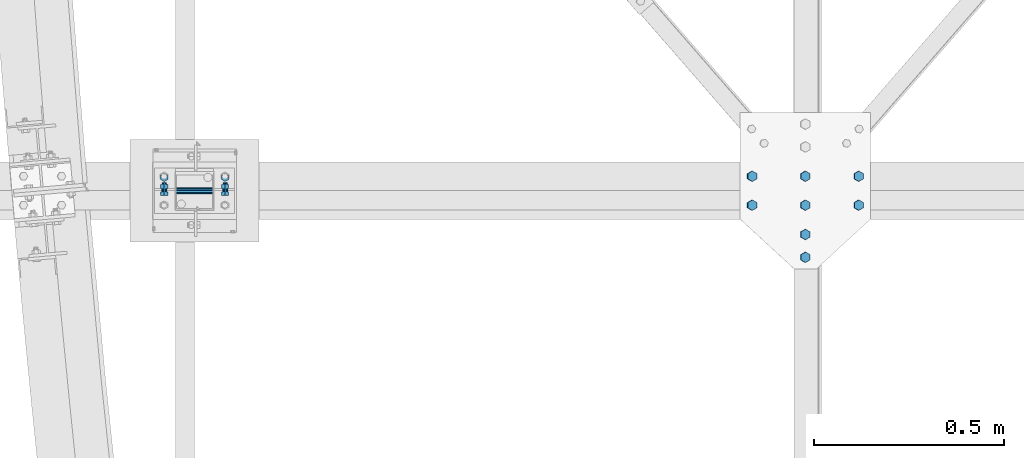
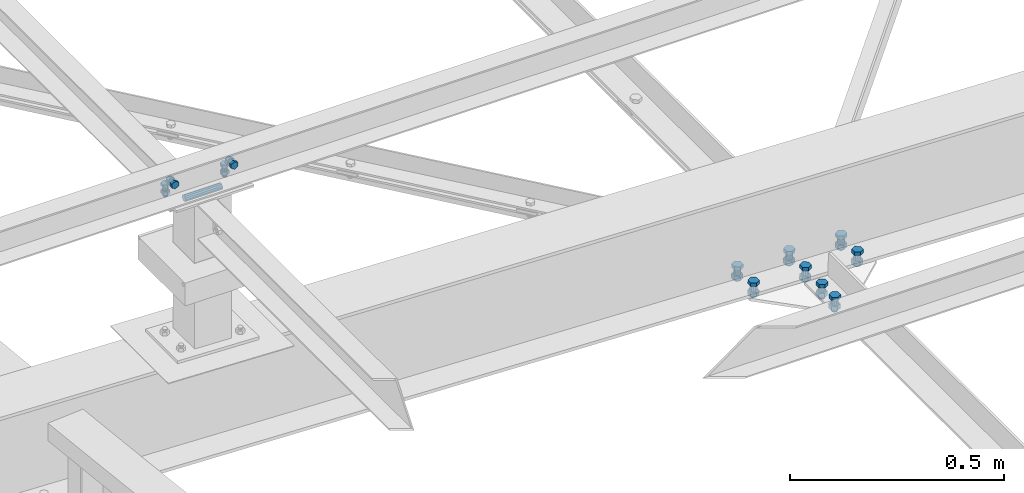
# One storey, part 76 of 3134: 5 mechanical fasteners, 4 elements without a shape of their own.
"""IFC2X3 building model written with IfcOpenShell, lengths in millimetres."""

import ifcopenshell
import ifcopenshell.guid

model = None  # the IFC model being written
_history = None  # IfcOwnerHistory: only IFC2X3 demands one
_inside = {}  # id of a spatial element -> (the spatial element, [elements in it])
_under = {}  # id of a project, library or spatial element -> (it, [spatial elements below it])
_declared = {}  # id of a project -> (the project, [libraries it declares])
_typed = {}  # id of a type object -> (the type object, [elements of that type])
_made_of = {}  # id of a material, layer set ... -> (it, [elements and type objects made of it])


def new_model(schema):
    """Start an empty IFC model of exactly this schema.

    Asked for "IFC4X3", IfcOpenShell would pick the latest addendum, in which some entities
    have other attributes; the version numbers below select the first issue.
    IFC2X3 requires an IfcOwnerHistory on every rooted entity: one is made here for all.
    """
    global model, _history
    if schema == "IFC4X3":
        model = ifcopenshell.file(schema_version=(4, 3, 0, 0))
    else:
        model = ifcopenshell.file(schema=schema)
    _inside.clear()
    _under.clear()
    _declared.clear()
    _typed.clear()
    _made_of.clear()
    _history = None
    if model.schema == "IFC2X3":
        org = make("IfcOrganization", Name="unknown")
        user = make(
            "IfcPersonAndOrganization",
            ThePerson=make("IfcPerson", FamilyName="unknown"),
            TheOrganization=org,
        )
        app = make(
            "IfcApplication",
            ApplicationDeveloper=org,
            Version="unknown",
            ApplicationFullName="unknown",
            ApplicationIdentifier="unknown",
        )
        _history = make(
            "IfcOwnerHistory",
            OwningUser=user,
            OwningApplication=app,
            ChangeAction="ADDED",
            CreationDate=0,
        )
    return model


def make(cls, **values):
    """One entity of the class cls with the attributes given. An attribute that is None is left unset."""
    return model.create_entity(
        cls, **{name: value for name, value in values.items() if value is not None}
    )


def rooted(cls, **values):
    """An entity with a GlobalId (a new one), such as an element, a storey or a relation."""
    return make(cls, GlobalId=ifcopenshell.guid.new(), OwnerHistory=_history, **values)


def si_unit(unit_type, name, prefix=None):
    """IfcSIUnit, for example si_unit("LENGTHUNIT", "METRE", prefix="MILLI")."""
    return make("IfcSIUnit", UnitType=unit_type, Prefix=prefix, Name=name)


def assignment(units):
    """IfcUnitAssignment: the units of a project."""
    return None if units is None else make("IfcUnitAssignment", Units=units)


def point(xyz):
    """IfcCartesianPoint."""
    return None if xyz is None else make("IfcCartesianPoint", Coordinates=xyz)


def direction(xyz):
    """IfcDirection."""
    return None if xyz is None else make("IfcDirection", DirectionRatios=xyz)


def frame(location, z_axis=None, x_axis=None):
    """IfcAxis2Placement3D, a coordinate frame: its origin and axes. An axis left out is left unset."""
    return make(
        "IfcAxis2Placement3D",
        Location=point(location),
        Axis=direction(z_axis),
        RefDirection=direction(x_axis),
    )


def origin_with_axes():
    """The frame at (0, 0, 0) with the z axis (0, 0, 1) and the x axis (1, 0, 0) written out."""
    return frame((0.0, 0.0, 0.0), z_axis=(0.0, 0.0, 1.0), x_axis=(1.0, 0.0, 0.0))


def place(relative_to, where):
    """IfcLocalPlacement: puts the frame where relative to a parent placement (None: the world)."""
    return make(
        "IfcLocalPlacement", PlacementRelTo=relative_to, RelativePlacement=where
    )


def context(
    kind, dimensions, precision=None, world=None, true_north=None, identifier=None
):
    """IfcGeometricRepresentationContext, for example the 3D "Model" context."""
    return make(
        "IfcGeometricRepresentationContext",
        ContextIdentifier=identifier,
        ContextType=kind,
        CoordinateSpaceDimension=dimensions,
        Precision=precision,
        WorldCoordinateSystem=world,
        TrueNorth=true_north,
    )


def subcontext(parent, identifier, kind, view, scale=None):
    """IfcGeometricRepresentationSubContext, for example "Body" below "Model"."""
    return make(
        "IfcGeometricRepresentationSubContext",
        ContextIdentifier=identifier,
        ContextType=kind,
        ParentContext=parent,
        TargetScale=scale,
        TargetView=view,
    )


def project(units=None, contexts=None):
    """IfcProject with its units and contexts."""
    return rooted(
        "IfcProject",
        Name="project",
        RepresentationContexts=contexts,
        UnitsInContext=assignment(units),
    )


def spatial(cls, under=None, at=None, **own):
    """A site, building, storey or space (cls), placed at a placement, below another one or the project."""
    s = rooted(cls, ObjectPlacement=at, **own)
    if under is not None:
        _under.setdefault(under.id(), (under, []))[1].append(s)
    return s


def faces_of(points, faces, orient=None, outer=None):
    """IfcFace entities. A face is a list of loops; a loop is a list of indices into points, from 0.

    orient and outer hold one flag for each loop. By default every Orientation is true, the
    first loop of a face is its IfcFaceOuterBound and the others are IfcFaceBound.
    """
    made = []
    for i, loops in enumerate(faces):
        bounds = []
        for j, loop in enumerate(loops):
            is_outer = j == 0 if outer is None else outer[i][j]
            bounds.append(
                make(
                    "IfcFaceOuterBound" if is_outer else "IfcFaceBound",
                    Bound=make("IfcPolyLoop", Polygon=[points[k] for k in loop]),
                    Orientation=True if orient is None else orient[i][j],
                )
            )
        made.append(make("IfcFace", Bounds=bounds))
    return made


def faceted_brep(points, faces, orient=None, outer=None, voids=None):
    """IfcFacetedBrep: a solid bounded by flat faces; with voids (closed shells), ...WithVoids."""
    shared = [point(p) for p in points]
    hull = make("IfcClosedShell", CfsFaces=faces_of(shared, faces, orient, outer))
    if voids is None:
        return make("IfcFacetedBrep", Outer=hull)
    return make(
        "IfcFacetedBrepWithVoids",
        Outer=hull,
        Voids=[
            make(cls, CfsFaces=faces_of(shared, fs, o, b)) for cls, fs, o, b in voids
        ],
    )


def shape(context_of_items, identifier, shape_type, items):
    """IfcShapeRepresentation: the items that make up one representation, for example the "Body"."""
    return make(
        "IfcShapeRepresentation",
        ContextOfItems=context_of_items,
        RepresentationIdentifier=identifier,
        RepresentationType=shape_type,
        Items=items,
    )


def source(mapping_origin, context_of_items, identifier, shape_type, items):
    """IfcRepresentationMap: a shape defined once, which mapped items show again and again."""
    return make(
        "IfcRepresentationMap",
        MappingOrigin=mapping_origin,
        MappedRepresentation=shape(context_of_items, identifier, shape_type, items),
    )


def transform(
    local_origin,
    x_axis=None,
    y_axis=None,
    z_axis=None,
    scale=None,
    scale2=None,
    scale3=None,
    uniform=True,
):
    """IfcCartesianTransformationOperator3D, or its non-uniform kind. x_axis, y_axis, z_axis: its Axis1, 2, 3."""
    if uniform:
        return make(
            "IfcCartesianTransformationOperator3D",
            Axis1=direction(x_axis),
            Axis2=direction(y_axis),
            LocalOrigin=point(local_origin),
            Scale=scale,
            Axis3=direction(z_axis),
        )
    return make(
        "IfcCartesianTransformationOperator3DnonUniform",
        Axis1=direction(x_axis),
        Axis2=direction(y_axis),
        LocalOrigin=point(local_origin),
        Scale=scale,
        Axis3=direction(z_axis),
        Scale2=scale2,
        Scale3=scale3,
    )


def mapped(mapping_source, mapping_target):
    """IfcMappedItem: shows the shape of a source again, moved by a transform."""
    return make(
        "IfcMappedItem", MappingSource=mapping_source, MappingTarget=mapping_target
    )


def material(Name=None, Category=None):
    """IfcMaterial."""
    return make("IfcMaterial", Name=Name, Category=Category)


def made_of(thing, what):
    """Note that an element or type object is made of a material, layer set ...; save() writes the relation."""
    if what is not None:
        _made_of.setdefault(what.id(), (what, []))[1].append(thing)
    return thing


def type_object(cls, material=None, **own):
    """A type object (cls), such as IfcWallType, which elements share."""
    return made_of(rooted(cls, **own), material)


def element(
    cls,
    number,
    at=None,
    inside=None,
    cuts=None,
    type_object=None,
    material=None,
    context=None,
    identifier="Body",
    shape_type=None,
    held_by="IfcProductDefinitionShape",
    body=None,
    shapes=None,
    **own,
):
    """One element of the class cls, such as IfcWall. Its Tag is "e" and its number.

    at: its placement. inside: the storey or other place that contains it. cuts: it is an
    opening in that element (IfcRelVoidsElement). A single representation is given by context,
    identifier, shape_type and body (its items); several are given by shapes. held_by: the class
    of the entity that holds the representations. save() writes the other relations.
    """
    e = rooted(cls, Tag="e%d" % number, ObjectPlacement=at, **own)
    if body is not None:
        shapes = [shape(context, identifier, shape_type, body)]
    if shapes is not None:
        e.Representation = make(held_by, Representations=shapes)
    if inside is not None:
        _inside.setdefault(inside.id(), (inside, []))[1].append(e)
    if cuts is not None:
        rooted(
            "IfcRelVoidsElement", RelatingBuildingElement=cuts, RelatedOpeningElement=e
        )
    if type_object is not None:
        _typed.setdefault(type_object.id(), (type_object, []))[1].append(e)
    return made_of(e, material)


def aggregate(whole, parts):
    """IfcRelAggregates: a whole, such as a stair, and the parts it consists of."""
    return rooted("IfcRelAggregates", RelatingObject=whole, RelatedObjects=parts)


def save(model, path):
    """Write the relations noted so far, then the file.

    IfcRelAggregates (storeys below a building ...), IfcRelContainedInSpatialStructure (elements
    in a storey), IfcRelDefinesByType, IfcRelAssociatesMaterial and IfcRelDeclares: one each for
    every whole, place, type object, material and project.
    """
    for whole, parts in _under.values():
        aggregate(whole, parts)
    for where, things in _inside.values():
        rooted(
            "IfcRelContainedInSpatialStructure",
            RelatedElements=things,
            RelatingStructure=where,
        )
    for kind, things in _typed.values():
        rooted("IfcRelDefinesByType", RelatedObjects=things, RelatingType=kind)
    for what, things in _made_of.values():
        rooted("IfcRelAssociatesMaterial", RelatedObjects=things, RelatingMaterial=what)
    for by, libraries in _declared.values():
        rooted("IfcRelDeclares", RelatingContext=by, RelatedDefinitions=libraries)
    model.write(path)


model = new_model("IFC2X3")

# Units and contexts
model_context = context("Model", 3, precision=1e-05, world=origin_with_axes())
body_context = subcontext(model_context, "Body", "Model", "MODEL_VIEW")
ifc_project = project(units=[si_unit("LENGTHUNIT", "METRE", prefix="MILLI"), si_unit("AREAUNIT", "SQUARE_METRE"), si_unit("VOLUMEUNIT", "CUBIC_METRE"), si_unit("MASSUNIT", "GRAM", prefix="KILO"), si_unit("TIMEUNIT", "SECOND"), si_unit("PLANEANGLEUNIT", "RADIAN"), si_unit("SOLIDANGLEUNIT", "STERADIAN"), si_unit("THERMODYNAMICTEMPERATUREUNIT", "DEGREE_CELSIUS"), si_unit("LUMINOUSINTENSITYUNIT", "LUMEN")], contexts=[model_context])

# Site, building, storey
site_placement = place(None, origin_with_axes())
site = spatial("IfcSite", under=ifc_project, at=site_placement, CompositionType="ELEMENT")
building_placement = place(site_placement, origin_with_axes())
building = spatial("IfcBuilding", under=site, at=building_placement, Name="Undefined", CompositionType="ELEMENT")
storey_placement = place(building_placement, origin_with_axes())
storey = spatial("IfcBuildingStorey", under=building, at=storey_placement, Name="Undefined", CompositionType="ELEMENT", Elevation=0.0)

# Assembly, mechanical fastener
assembly_1_placement = place(storey_placement, origin_with_axes())
assembly_1 = element("IfcElementAssembly", 1, at=assembly_1_placement, inside=storey, AssemblyPlace="NOTDEFINED", PredefinedType="RIGID_FRAME")
ifc_material = material(Name="8.8")
mechanical_fastener_type = type_object("IfcMechanicalFastenerType", Name="Bolt assembly")
shared_shape_1 = source(origin_with_axes(), body_context, "Body", "Brep", [
    faceted_brep([(10.9696551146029, -14.0, 0.0), (5.48482755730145, -14.0, 9.5), (-5.48482755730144, -14.0, 9.5), (-10.9696551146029, -14.0, 1.34339530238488e-15), (-5.48482755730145, -14.0, -9.5), (5.48482755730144, -14.0, -9.50000000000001), (5.48482755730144, -6.0, -9.50000000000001), (-5.48482755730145, -6.0, -9.5), (-10.9696551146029, -6.0, 1.34339530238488e-15), (-5.48482755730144, -6.0, 9.5), (5.48482755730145, -6.0, 9.5), (10.9696551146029, -6.0, 0.0), (6.0, -6.0, 0.0), (5.19615242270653, -6.0, 3.00000000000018), (2.99999999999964, -6.0, 5.19615242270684), (-6.21801588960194e-13, -6.0, 6.0), (-3.00000000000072, -6.0, 5.19615242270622), (-5.19615242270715, -6.0, 2.9999999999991), (-6.0, -6.0, -1.24360317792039e-12), (-5.19615242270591, -6.0, -3.00000000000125), (-2.99999999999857, -6.0, -5.19615242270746), (1.85874342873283e-12, -6.0, -6.0), (3.00000000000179, -6.0, -5.1961524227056), (5.19615242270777, -6.0, -2.99999999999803), (5.19615242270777, 24.0, -2.99999999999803), (3.00000000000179, 24.0, -5.1961524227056), (1.85874342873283e-12, 24.0, -6.0), (-2.99999999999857, 24.0, -5.19615242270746), (-5.19615242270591, 24.0, -3.00000000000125), (-6.0, 24.0, -1.24360317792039e-12), (-5.19615242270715, 24.0, 2.9999999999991), (-3.00000000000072, 24.0, 5.19615242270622), (-6.21801588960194e-13, 24.0, 6.0), (2.99999999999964, 24.0, 5.19615242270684), (5.19615242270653, 24.0, 3.00000000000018), (6.0, 24.0, 0.0), (10.9696551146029, 6.00000000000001, 0.0), (5.48482755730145, 6.00000000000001, 9.5), (-5.48482755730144, 6.00000000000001, 9.5), (-10.9696551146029, 6.00000000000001, 1.34339530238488e-15), (-5.48482755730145, 6.00000000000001, -9.5), (5.48482755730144, 6.00000000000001, -9.50000000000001), (5.48482755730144, 16.0, -9.50000000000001), (-5.48482755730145, 16.0, -9.5), (-10.9696551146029, 16.0, 1.34339530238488e-15), (-5.48482755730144, 16.0, 9.5), (5.48482755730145, 16.0, 9.5), (10.9696551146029, 16.0, 0.0)], [[[0, 1, 2, 3, 4, 5]], [[6, 7, 8, 9, 10, 11]], [[0, 11, 10, 1]], [[1, 10, 9, 2]], [[2, 9, 8, 3]], [[3, 8, 7, 4]], [[4, 7, 6, 5]], [[5, 6, 11, 0]], [[12, 13, 14, 15, 16, 17, 18, 19, 20, 21, 22, 23]], [[24, 25, 26, 27, 28, 29, 30, 31, 32, 33, 34, 35]], [[12, 35, 34, 13]], [[13, 34, 33, 14]], [[14, 33, 32, 15]], [[15, 32, 31, 16]], [[16, 31, 30, 17]], [[17, 30, 29, 18]], [[18, 29, 28, 19]], [[19, 28, 27, 20]], [[20, 27, 26, 21]], [[21, 26, 25, 22]], [[22, 25, 24, 23]], [[23, 24, 35, 12]], [[36, 37, 38, 39, 40, 41]], [[42, 43, 44, 45, 46, 47]], [[36, 47, 46, 37]], [[37, 46, 45, 38]], [[38, 45, 44, 39]], [[39, 44, 43, 40]], [[40, 43, 42, 41]], [[41, 42, 47, 36]]]),
    faceted_brep([(7.0, -0.1, 0.0), (6.06217782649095, -0.1, 3.50000000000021), (3.49999999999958, -0.1, 6.06217782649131), (-7.25435187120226e-13, -0.1, 7.0), (-3.50000000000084, -0.1, 6.06217782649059), (-6.06217782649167, -0.1, 3.49999999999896), (-7.0, -0.1, -1.45087037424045e-12), (-6.06217782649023, -0.1, -3.50000000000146), (-3.49999999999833, -0.1, -6.06217782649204), (2.1685340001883e-12, -0.1, -7.0), (3.50000000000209, -0.1, -6.06217782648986), (6.0621778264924, -0.1, -3.4999999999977), (6.0621778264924, 6.00000000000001, -3.4999999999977), (3.50000000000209, 6.00000000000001, -6.06217782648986), (2.1685340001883e-12, 6.00000000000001, -7.0), (-3.49999999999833, 6.00000000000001, -6.06217782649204), (-6.06217782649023, 6.00000000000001, -3.50000000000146), (-7.0, 6.00000000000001, -1.45087037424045e-12), (-6.06217782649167, 6.00000000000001, 3.49999999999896), (-3.50000000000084, 6.00000000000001, 6.06217782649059), (-7.25435187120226e-13, 6.00000000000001, 7.0), (3.49999999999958, 6.00000000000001, 6.06217782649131), (6.06217782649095, 6.00000000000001, 3.50000000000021), (7.0, 6.00000000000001, 0.0), (7.0, -5.9, 0.0), (6.06217782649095, -5.9, 3.50000000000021), (3.49999999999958, -5.9, 6.06217782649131), (-7.25435187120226e-13, -5.9, 7.0), (-3.50000000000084, -5.9, 6.06217782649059), (-6.06217782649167, -5.9, 3.49999999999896), (-7.0, -5.9, -1.45087037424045e-12), (-6.06217782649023, -5.9, -3.50000000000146), (-3.49999999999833, -5.9, -6.06217782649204), (2.1685340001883e-12, -5.9, -7.0), (3.50000000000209, -5.9, -6.06217782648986), (6.0621778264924, -5.9, -3.4999999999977), (6.0621778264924, 0.0999999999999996, -3.4999999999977), (3.50000000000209, 0.0999999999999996, -6.06217782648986), (2.1685340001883e-12, 0.0999999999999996, -7.0), (-3.49999999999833, 0.0999999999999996, -6.06217782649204), (-6.06217782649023, 0.0999999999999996, -3.50000000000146), (-7.0, 0.0999999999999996, -1.45087037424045e-12), (-6.06217782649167, 0.0999999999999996, 3.49999999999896), (-3.50000000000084, 0.0999999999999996, 6.06217782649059), (-7.25435187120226e-13, 0.0999999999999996, 7.0), (3.49999999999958, 0.0999999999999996, 6.06217782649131), (6.06217782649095, 0.0999999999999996, 3.50000000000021), (7.0, 0.0999999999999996, 0.0)], [[[0, 1, 2, 3, 4, 5, 6, 7, 8, 9, 10, 11]], [[12, 13, 14, 15, 16, 17, 18, 19, 20, 21, 22, 23]], [[0, 23, 22, 1]], [[1, 22, 21, 2]], [[2, 21, 20, 3]], [[3, 20, 19, 4]], [[4, 19, 18, 5]], [[5, 18, 17, 6]], [[6, 17, 16, 7]], [[7, 16, 15, 8]], [[8, 15, 14, 9]], [[9, 14, 13, 10]], [[10, 13, 12, 11]], [[11, 12, 23, 0]], [[24, 25, 26, 27, 28, 29, 30, 31, 32, 33, 34, 35]], [[36, 37, 38, 39, 40, 41, 42, 43, 44, 45, 46, 47]], [[24, 47, 46, 25]], [[25, 46, 45, 26]], [[26, 45, 44, 27]], [[27, 44, 43, 28]], [[28, 43, 42, 29]], [[29, 42, 41, 30]], [[30, 41, 40, 31]], [[31, 40, 39, 32]], [[32, 39, 38, 33]], [[33, 38, 37, 34]], [[34, 37, 36, 35]], [[35, 36, 47, 24]]]),
])
mechanical_fastener_1_placement = place(assembly_1_placement, frame((3043.33, 29610.0, 4365.0), z_axis=(1.0, 0.0, 0.0), x_axis=(0.0, -1.0, 0.0)))
mechanical_fastener_1 = element("IfcMechanicalFastener", 2, at=mechanical_fastener_1_placement, type_object=mechanical_fastener_type, material=ifc_material, Name="Bolt assembly", NominalDiameter=12.0, NominalLength=30.0, context=body_context, shape_type="MappedRepresentation", body=[
    mapped(shared_shape_1, transform((0.0, -5.32963895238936e-10, -79.9999999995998))),
    mapped(shared_shape_1, transform((0.0, 5.3114490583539e-10, 79.9999999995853))),
])

assembly_2_placement = place(storey_placement, origin_with_axes())
assembly_2 = element("IfcElementAssembly", 3, at=assembly_2_placement, inside=storey, Name="300", AssemblyPlace="NOTDEFINED", PredefinedType="RIGID_FRAME")
shared_shape_2 = source(origin_with_axes(), body_context, "Body", "Brep", [
    faceted_brep([(13.856406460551, -23.2000817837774, 0.0), (6.92820323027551, -23.2000817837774, 12.0), (-6.92820323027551, -23.2000817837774, 12.0), (-13.856406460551, -23.2000817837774, 1.69692038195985e-15), (-6.92820323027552, -23.2000817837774, -12.0), (6.9282032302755, -23.2000817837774, -12.0), (6.9282032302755, -13.2000817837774, -12.0), (-6.92820323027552, -13.2000817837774, -12.0), (-13.856406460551, -13.2000817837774, 1.69692038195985e-15), (-6.92820323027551, -13.2000817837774, 12.0), (6.92820323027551, -13.2000817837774, 12.0), (13.856406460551, -13.2000817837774, 0.0), (8.0, -13.2000817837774, 0.0), (6.92820323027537, -13.2000817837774, 4.00000000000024), (3.99999999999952, -13.2000817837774, 6.92820323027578), (-8.29068785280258e-13, -13.2000817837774, 8.0), (-4.00000000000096, -13.2000817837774, 6.92820323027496), (-6.9282032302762, -13.2000817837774, 3.99999999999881), (-8.0, -13.2000817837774, -1.65813757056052e-12), (-6.92820323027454, -13.2000817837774, -4.00000000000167), (-3.99999999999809, -13.2000817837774, -6.92820323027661), (2.47832457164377e-12, -13.2000817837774, -8.0), (4.00000000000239, -13.2000817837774, -6.92820323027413), (6.92820323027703, -13.2000817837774, -3.99999999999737), (6.92820323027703, 21.7999182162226, -3.99999999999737), (4.00000000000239, 21.7999182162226, -6.92820323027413), (2.47832457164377e-12, 21.7999182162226, -8.0), (-3.99999999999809, 21.7999182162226, -6.92820323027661), (-6.92820323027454, 21.7999182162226, -4.00000000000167), (-8.0, 21.7999182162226, -1.65813757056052e-12), (-6.9282032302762, 21.7999182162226, 3.99999999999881), (-4.00000000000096, 21.7999182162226, 6.92820323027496), (-8.29068785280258e-13, 21.7999182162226, 8.0), (3.99999999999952, 21.7999182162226, 6.92820323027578), (6.92820323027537, 21.7999182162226, 4.00000000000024), (8.0, 21.7999182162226, 0.0), (13.856406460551, 3.99999999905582, 0.0), (6.92820323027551, 3.99999999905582, 12.0), (-6.92820323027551, 3.99999999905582, 12.0), (-13.856406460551, 3.99999999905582, 1.69692038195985e-15), (-6.92820323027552, 3.99999999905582, -12.0), (6.9282032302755, 3.99999999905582, -12.0), (6.9282032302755, 16.9999999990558, -12.0), (-6.92820323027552, 16.9999999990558, -12.0), (-13.856406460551, 16.9999999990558, 1.69692038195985e-15), (-6.92820323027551, 16.9999999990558, 12.0), (6.92820323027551, 16.9999999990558, 12.0), (13.856406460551, 16.9999999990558, 0.0)], [[[0, 1, 2, 3, 4, 5]], [[6, 7, 8, 9, 10, 11]], [[0, 11, 10, 1]], [[1, 10, 9, 2]], [[2, 9, 8, 3]], [[3, 8, 7, 4]], [[4, 7, 6, 5]], [[5, 6, 11, 0]], [[12, 13, 14, 15, 16, 17, 18, 19, 20, 21, 22, 23]], [[24, 25, 26, 27, 28, 29, 30, 31, 32, 33, 34, 35]], [[12, 35, 34, 13]], [[13, 34, 33, 14]], [[14, 33, 32, 15]], [[15, 32, 31, 16]], [[16, 31, 30, 17]], [[17, 30, 29, 18]], [[18, 29, 28, 19]], [[19, 28, 27, 20]], [[20, 27, 26, 21]], [[21, 26, 25, 22]], [[22, 25, 24, 23]], [[23, 24, 35, 12]], [[36, 37, 38, 39, 40, 41]], [[42, 43, 44, 45, 46, 47]], [[36, 47, 46, 37]], [[37, 46, 45, 38]], [[38, 45, 44, 39]], [[39, 44, 43, 40]], [[40, 43, 42, 41]], [[41, 42, 47, 36]]]),
    faceted_brep([(9.0, -4.10000000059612, 0.0), (7.79422863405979, -4.10000000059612, 4.50000000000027), (4.49999999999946, -4.10000000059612, 7.79422863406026), (-9.3270238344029e-13, -4.10000000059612, 9.0), (-4.50000000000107, -4.10000000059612, 7.79422863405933), (-7.79422863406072, -4.10000000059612, 4.49999999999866), (-9.0, -4.10000000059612, -1.86540476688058e-12), (-7.79422863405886, -4.10000000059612, -4.50000000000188), (-4.49999999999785, -4.10000000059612, -7.79422863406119), (2.78811514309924e-12, -4.10000000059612, -9.0), (4.50000000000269, -4.10000000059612, -7.7942286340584), (7.79422863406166, -4.10000000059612, -4.49999999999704), (7.79422863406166, 4.00000375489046, -4.49999999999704), (4.50000000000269, 4.00000375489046, -7.7942286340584), (2.78811514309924e-12, 4.00000375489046, -9.0), (-4.49999999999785, 4.00000375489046, -7.79422863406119), (-7.79422863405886, 4.00000375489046, -4.50000000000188), (-9.0, 4.00000375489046, -1.86540476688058e-12), (-7.79422863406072, 4.00000375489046, 4.49999999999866), (-4.50000000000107, 4.00000375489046, 7.79422863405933), (-9.3270238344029e-13, 4.00000375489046, 9.0), (4.49999999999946, 4.00000375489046, 7.79422863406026), (7.79422863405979, 4.00000375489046, 4.50000000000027), (9.0, 4.00000375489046, 0.0), (9.0, -13.1000817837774, 0.0), (7.79422863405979, -13.1000817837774, 4.50000000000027), (4.49999999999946, -13.1000817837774, 7.79422863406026), (-9.3270238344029e-13, -13.1000817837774, 9.0), (-4.50000000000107, -13.1000817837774, 7.79422863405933), (-7.79422863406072, -13.1000817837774, 4.49999999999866), (-9.0, -13.1000817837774, -1.86540476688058e-12), (-7.79422863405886, -13.1000817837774, -4.50000000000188), (-4.49999999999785, -13.1000817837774, -7.79422863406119), (2.78811514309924e-12, -13.1000817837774, -9.0), (4.50000000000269, -13.1000817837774, -7.7942286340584), (7.79422863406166, -13.1000817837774, -4.49999999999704), (7.79422863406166, -3.90008197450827, -4.49999999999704), (4.50000000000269, -3.90008197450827, -7.7942286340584), (2.78811514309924e-12, -3.90008197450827, -9.0), (-4.49999999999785, -3.90008197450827, -7.79422863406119), (-7.79422863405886, -3.90008197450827, -4.50000000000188), (-9.0, -3.90008197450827, -1.86540476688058e-12), (-7.79422863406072, -3.90008197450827, 4.49999999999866), (-4.50000000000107, -3.90008197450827, 7.79422863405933), (-9.3270238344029e-13, -3.90008197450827, 9.0), (4.49999999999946, -3.90008197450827, 7.79422863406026), (7.79422863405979, -3.90008197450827, 4.50000000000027), (9.0, -3.90008197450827, 0.0)], [[[0, 1, 2, 3, 4, 5, 6, 7, 8, 9, 10, 11]], [[12, 13, 14, 15, 16, 17, 18, 19, 20, 21, 22, 23]], [[0, 23, 22, 1]], [[1, 22, 21, 2]], [[2, 21, 20, 3]], [[3, 20, 19, 4]], [[4, 19, 18, 5]], [[5, 18, 17, 6]], [[6, 17, 16, 7]], [[7, 16, 15, 8]], [[8, 15, 14, 9]], [[9, 14, 13, 10]], [[10, 13, 12, 11]], [[11, 12, 23, 0]], [[24, 25, 26, 27, 28, 29, 30, 31, 32, 33, 34, 35]], [[36, 37, 38, 39, 40, 41, 42, 43, 44, 45, 46, 47]], [[24, 47, 46, 25]], [[25, 46, 45, 26]], [[26, 45, 44, 27]], [[27, 44, 43, 28]], [[28, 43, 42, 29]], [[29, 42, 41, 30]], [[30, 41, 40, 31]], [[31, 40, 39, 32]], [[32, 39, 38, 33]], [[33, 38, 37, 34]], [[34, 37, 36, 35]], [[35, 36, 47, 24]]]),
])
mechanical_fastener_2_placement = place(assembly_2_placement, frame((4647.5048352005, 29537.0, 3576.15051900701), z_axis=(-0.999388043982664, 0.0, 0.0349791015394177), x_axis=(0.0, 1.0, 0.0)))
mechanical_fastener_2 = element("IfcMechanicalFastener", 4, at=mechanical_fastener_2_placement, type_object=mechanical_fastener_type, material=ifc_material, Name="Bolt assembly", NominalDiameter=16.0, NominalLength=35.0, context=body_context, shape_type="MappedRepresentation", body=[
    mapped(shared_shape_2, transform((0.0, 2.38287611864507e-10, -139.999999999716))),
    mapped(shared_shape_2, transform((76.0, 2.38287611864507e-10, -139.999999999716))),
    mapped(shared_shape_2, transform((0.0, 0.0, 0.0))),
    mapped(shared_shape_2, transform((76.0, 0.0, 0.0))),
    mapped(shared_shape_2, transform((0.0, -2.37378117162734e-10, 139.99999999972))),
    mapped(shared_shape_2, transform((76.0, -2.37378117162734e-10, 139.99999999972))),
])
aggregate(assembly_2, [mechanical_fastener_2])

assembly_3_placement = place(storey_placement, origin_with_axes())
assembly_3 = element("IfcElementAssembly", 5, at=assembly_3_placement, inside=storey, Name="PL8", AssemblyPlace="NOTDEFINED", PredefinedType="RIGID_FRAME")
shared_shape_3 = source(origin_with_axes(), body_context, "Body", "Brep", [
    faceted_brep([(13.856406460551, -21.0000017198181, 0.0), (6.92820323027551, -21.0000017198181, 12.0), (-6.92820323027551, -21.0000017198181, 12.0), (-13.856406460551, -21.0000017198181, 1.69692038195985e-15), (-6.92820323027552, -21.0000017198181, -12.0), (6.9282032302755, -21.0000017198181, -12.0), (6.9282032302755, -11.0000017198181, -12.0), (-6.92820323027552, -11.0000017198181, -12.0), (-13.856406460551, -11.0000017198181, 1.69692038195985e-15), (-6.92820323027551, -11.0000017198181, 12.0), (6.92820323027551, -11.0000017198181, 12.0), (13.856406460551, -11.0000017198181, 0.0), (8.0, -11.0000017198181, 0.0), (6.92820323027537, -11.0000017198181, 4.00000000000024), (3.99999999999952, -11.0000017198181, 6.92820323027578), (-8.29068785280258e-13, -11.0000017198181, 8.0), (-4.00000000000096, -11.0000017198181, 6.92820323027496), (-6.9282032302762, -11.0000017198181, 3.99999999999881), (-8.0, -11.0000017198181, -1.65813757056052e-12), (-6.92820323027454, -11.0000017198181, -4.00000000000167), (-3.99999999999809, -11.0000017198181, -6.92820323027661), (2.47832457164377e-12, -11.0000017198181, -8.0), (4.00000000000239, -11.0000017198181, -6.92820323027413), (6.92820323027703, -11.0000017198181, -3.99999999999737), (6.92820323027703, 23.9999999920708, -3.99999999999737), (4.00000000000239, 23.9999999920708, -6.92820323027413), (2.47832457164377e-12, 23.9999999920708, -8.0), (-3.99999999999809, 23.9999999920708, -6.92820323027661), (-6.92820323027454, 23.9999999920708, -4.00000000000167), (-8.0, 23.9999999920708, -1.65813757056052e-12), (-6.9282032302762, 23.9999999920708, 3.99999999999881), (-4.00000000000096, 23.9999999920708, 6.92820323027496), (-8.29068785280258e-13, 23.9999999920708, 8.0), (3.99999999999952, 23.9999999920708, 6.92820323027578), (6.92820323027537, 23.9999999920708, 4.00000000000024), (8.0, 23.9999999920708, 0.0), (13.856406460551, 3.99999999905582, 0.0), (6.92820323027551, 3.99999999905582, 12.0), (-6.92820323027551, 3.99999999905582, 12.0), (-13.856406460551, 3.99999999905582, 1.69692038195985e-15), (-6.92820323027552, 3.99999999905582, -12.0), (6.9282032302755, 3.99999999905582, -12.0), (6.9282032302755, 16.9999999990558, -12.0), (-6.92820323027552, 16.9999999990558, -12.0), (-13.856406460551, 16.9999999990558, 1.69692038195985e-15), (-6.92820323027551, 16.9999999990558, 12.0), (6.92820323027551, 16.9999999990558, 12.0), (13.856406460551, 16.9999999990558, 0.0)], [[[0, 1, 2, 3, 4, 5]], [[6, 7, 8, 9, 10, 11]], [[0, 11, 10, 1]], [[1, 10, 9, 2]], [[2, 9, 8, 3]], [[3, 8, 7, 4]], [[4, 7, 6, 5]], [[5, 6, 11, 0]], [[12, 13, 14, 15, 16, 17, 18, 19, 20, 21, 22, 23]], [[24, 25, 26, 27, 28, 29, 30, 31, 32, 33, 34, 35]], [[12, 35, 34, 13]], [[13, 34, 33, 14]], [[14, 33, 32, 15]], [[15, 32, 31, 16]], [[16, 31, 30, 17]], [[17, 30, 29, 18]], [[18, 29, 28, 19]], [[19, 28, 27, 20]], [[20, 27, 26, 21]], [[21, 26, 25, 22]], [[22, 25, 24, 23]], [[23, 24, 35, 12]], [[36, 37, 38, 39, 40, 41]], [[42, 43, 44, 45, 46, 47]], [[36, 47, 46, 37]], [[37, 46, 45, 38]], [[38, 45, 44, 39]], [[39, 44, 43, 40]], [[40, 43, 42, 41]], [[41, 42, 47, 36]]]),
    faceted_brep([(9.0, -10.9000017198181, 0.0), (7.79422863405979, -10.9000017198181, 4.50000000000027), (4.49999999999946, -10.9000017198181, 7.79422863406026), (-9.3270238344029e-13, -10.9000017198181, 9.0), (-4.50000000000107, -10.9000017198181, 7.79422863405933), (-7.79422863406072, -10.9000017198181, 4.49999999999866), (-9.0, -10.9000017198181, -1.86540476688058e-12), (-7.79422863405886, -10.9000017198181, -4.50000000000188), (-4.49999999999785, -10.9000017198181, -7.79422863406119), (2.78811514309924e-12, -10.9000017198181, -9.0), (4.50000000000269, -10.9000017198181, -7.7942286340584), (7.79422863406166, -10.9000017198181, -4.49999999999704), (7.79422863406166, -3.9, -4.49999999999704), (4.50000000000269, -3.9, -7.7942286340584), (2.78811514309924e-12, -3.9, -9.0), (-4.49999999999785, -3.9, -7.79422863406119), (-7.79422863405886, -3.9, -4.50000000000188), (-9.0, -3.9, -1.86540476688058e-12), (-7.79422863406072, -3.9, 4.49999999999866), (-4.50000000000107, -3.9, 7.79422863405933), (-9.3270238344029e-13, -3.9, 9.0), (4.49999999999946, -3.9, 7.79422863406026), (7.79422863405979, -3.9, 4.50000000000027), (9.0, -3.9, 0.0), (9.0, -4.10000000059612, 0.0), (7.79422863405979, -4.10000000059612, 4.50000000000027), (4.49999999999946, -4.10000000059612, 7.79422863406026), (-9.3270238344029e-13, -4.10000000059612, 9.0), (-4.50000000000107, -4.10000000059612, 7.79422863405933), (-7.79422863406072, -4.10000000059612, 4.49999999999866), (-9.0, -4.10000000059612, -1.86540476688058e-12), (-7.79422863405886, -4.10000000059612, -4.50000000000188), (-4.49999999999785, -4.10000000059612, -7.79422863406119), (2.78811514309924e-12, -4.10000000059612, -9.0), (4.50000000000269, -4.10000000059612, -7.7942286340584), (7.79422863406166, -4.10000000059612, -4.49999999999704), (7.79422863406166, 4.00000375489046, -4.49999999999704), (4.50000000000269, 4.00000375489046, -7.7942286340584), (2.78811514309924e-12, 4.00000375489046, -9.0), (-4.49999999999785, 4.00000375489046, -7.79422863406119), (-7.79422863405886, 4.00000375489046, -4.50000000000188), (-9.0, 4.00000375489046, -1.86540476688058e-12), (-7.79422863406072, 4.00000375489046, 4.49999999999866), (-4.50000000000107, 4.00000375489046, 7.79422863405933), (-9.3270238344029e-13, 4.00000375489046, 9.0), (4.49999999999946, 4.00000375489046, 7.79422863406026), (7.79422863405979, 4.00000375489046, 4.50000000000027), (9.0, 4.00000375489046, 0.0)], [[[0, 1, 2, 3, 4, 5, 6, 7, 8, 9, 10, 11]], [[12, 13, 14, 15, 16, 17, 18, 19, 20, 21, 22, 23]], [[0, 23, 22, 1]], [[1, 22, 21, 2]], [[2, 21, 20, 3]], [[3, 20, 19, 4]], [[4, 19, 18, 5]], [[5, 18, 17, 6]], [[6, 17, 16, 7]], [[7, 16, 15, 8]], [[8, 15, 14, 9]], [[9, 14, 13, 10]], [[10, 13, 12, 11]], [[11, 12, 23, 0]], [[24, 25, 26, 27, 28, 29, 30, 31, 32, 33, 34, 35]], [[36, 37, 38, 39, 40, 41, 42, 43, 44, 45, 46, 47]], [[24, 47, 46, 25]], [[25, 46, 45, 26]], [[26, 45, 44, 27]], [[27, 44, 43, 28]], [[28, 43, 42, 29]], [[29, 42, 41, 30]], [[30, 41, 40, 31]], [[31, 40, 39, 32]], [[32, 39, 38, 33]], [[33, 38, 37, 34]], [[34, 37, 36, 35]], [[35, 36, 47, 24]]]),
])
mechanical_fastener_3_placement = place(assembly_3_placement, frame((4647.50483525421, 29400.0, 3576.15051901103), z_axis=(-0.999388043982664, 0.0, 0.0349791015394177), x_axis=(0.0, 1.0, 0.0)))
mechanical_fastener_3 = element("IfcMechanicalFastener", 6, at=mechanical_fastener_3_placement, type_object=mechanical_fastener_type, material=ifc_material, Name="Bolt assembly", NominalDiameter=16.0, NominalLength=35.0, context=body_context, shape_type="MappedRepresentation", body=[
    mapped(shared_shape_3, transform((0.0, 0.0, 0.0))),
    mapped(shared_shape_3, transform((59.9999999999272, 0.0, 5.40239852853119e-10))),
])
aggregate(assembly_3, [mechanical_fastener_3])

assembly_4_placement = place(storey_placement, origin_with_axes())
assembly_4 = element("IfcElementAssembly", 7, at=assembly_4_placement, inside=storey, AssemblyPlace="NOTDEFINED", PredefinedType="RIGID_FRAME")
shared_shape_4 = source(origin_with_axes(), body_context, "Body", "Brep", [
    faceted_brep([(9.0, -50.0, 0.0), (7.79422863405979, -50.0, 4.50000000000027), (4.49999999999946, -50.0, 7.79422863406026), (-9.3270238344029e-13, -50.0, 9.0), (-4.50000000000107, -50.0, 7.79422863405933), (-7.79422863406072, -50.0, 4.49999999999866), (-9.0, -50.0, -1.86540476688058e-12), (-7.79422863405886, -50.0, -4.50000000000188), (-4.49999999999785, -50.0, -7.79422863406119), (2.78811514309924e-12, -50.0, -9.0), (4.50000000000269, -50.0, -7.7942286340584), (7.79422863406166, -50.0, -4.49999999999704), (7.79422863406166, 50.1, -4.49999999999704), (4.50000000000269, 50.1, -7.7942286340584), (2.78811514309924e-12, 50.1, -9.0), (-4.49999999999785, 50.1, -7.79422863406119), (-7.79422863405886, 50.1, -4.50000000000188), (-9.0, 50.1, -1.86540476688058e-12), (-7.79422863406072, 50.1, 4.49999999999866), (-4.50000000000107, 50.1, 7.79422863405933), (-9.3270238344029e-13, 50.1, 9.0), (4.49999999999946, 50.1, 7.79422863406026), (7.79422863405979, 50.1, 4.50000000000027), (9.0, 50.1, 0.0)], [[[0, 1, 2, 3, 4, 5, 6, 7, 8, 9, 10, 11]], [[12, 13, 14, 15, 16, 17, 18, 19, 20, 21, 22, 23]], [[0, 23, 22, 1]], [[1, 22, 21, 2]], [[2, 21, 20, 3]], [[3, 20, 19, 4]], [[4, 19, 18, 5]], [[5, 18, 17, 6]], [[6, 17, 16, 7]], [[7, 16, 15, 8]], [[8, 15, 14, 9]], [[9, 14, 13, 10]], [[10, 13, 12, 11]], [[11, 12, 23, 0]]]),
])
mechanical_fastener_4_placement = place(assembly_4_placement, frame((3043.33, 29575.0, 4345.0), z_axis=(0.0, 1.0, 0.0), x_axis=(0.0, 0.0, 1.0)))
mechanical_fastener_4 = element("IfcMechanicalFastener", 8, at=mechanical_fastener_4_placement, type_object=mechanical_fastener_type, material=ifc_material, Name="Bolt assembly", NominalDiameter=16.0, NominalLength=100.0, context=body_context, shape_type="MappedRepresentation", body=[
    mapped(shared_shape_4, transform((0.0, 0.0, 0.0))),
])
aggregate(assembly_4, [mechanical_fastener_4])

# Mechanical fastener
shared_shape_5 = source(origin_with_axes(), body_context, "Body", "Brep", [
    faceted_brep([(10.9696551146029, -12.0003169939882, 0.0), (5.48482755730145, -12.0003169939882, 9.5), (-5.48482755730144, -12.0003169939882, 9.5), (-10.9696551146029, -12.0003169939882, 1.34339530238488e-15), (-5.48482755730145, -12.0003169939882, -9.5), (5.48482755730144, -12.0003169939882, -9.50000000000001), (5.48482755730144, -4.00031699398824, -9.50000000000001), (-5.48482755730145, -4.00031699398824, -9.5), (-10.9696551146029, -4.00031699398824, 1.34339530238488e-15), (-5.48482755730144, -4.00031699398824, 9.5), (5.48482755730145, -4.00031699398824, 9.5), (10.9696551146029, -4.00031699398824, 0.0), (6.0, -4.00031699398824, 0.0), (5.19615242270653, -4.00031699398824, 3.00000000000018), (2.99999999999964, -4.00031699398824, 5.19615242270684), (-6.21801588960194e-13, -4.00031699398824, 6.0), (-3.00000000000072, -4.00031699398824, 5.19615242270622), (-5.19615242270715, -4.00031699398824, 2.9999999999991), (-6.0, -4.00031699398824, -1.24360317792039e-12), (-5.19615242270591, -4.00031699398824, -3.00000000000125), (-2.99999999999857, -4.00031699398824, -5.19615242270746), (1.85874342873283e-12, -4.00031699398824, -6.0), (3.00000000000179, -4.00031699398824, -5.1961524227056), (5.19615242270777, -4.00031699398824, -2.99999999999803), (5.19615242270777, 20.9997148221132, -2.99999999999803), (3.00000000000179, 20.9997148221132, -5.1961524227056), (1.85874342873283e-12, 20.9997148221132, -6.0), (-2.99999999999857, 20.9997148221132, -5.19615242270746), (-5.19615242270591, 20.9997148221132, -3.00000000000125), (-6.0, 20.9997148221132, -1.24360317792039e-12), (-5.19615242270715, 20.9997148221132, 2.9999999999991), (-3.00000000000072, 20.9997148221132, 5.19615242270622), (-6.21801588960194e-13, 20.9997148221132, 6.0), (2.99999999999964, 20.9997148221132, 5.19615242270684), (5.19615242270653, 20.9997148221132, 3.00000000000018), (6.0, 20.9997148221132, 0.0), (10.9696551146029, 6.00000000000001, 0.0), (5.48482755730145, 6.00000000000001, 9.5), (-5.48482755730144, 6.00000000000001, 9.5), (-10.9696551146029, 6.00000000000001, 1.34339530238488e-15), (-5.48482755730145, 6.00000000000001, -9.5), (5.48482755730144, 6.00000000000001, -9.50000000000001), (5.48482755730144, 16.0, -9.50000000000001), (-5.48482755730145, 16.0, -9.5), (-10.9696551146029, 16.0, 1.34339530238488e-15), (-5.48482755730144, 16.0, 9.5), (5.48482755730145, 16.0, 9.5), (10.9696551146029, 16.0, 0.0)], [[[0, 1, 2, 3, 4, 5]], [[6, 7, 8, 9, 10, 11]], [[0, 11, 10, 1]], [[1, 10, 9, 2]], [[2, 9, 8, 3]], [[3, 8, 7, 4]], [[4, 7, 6, 5]], [[5, 6, 11, 0]], [[12, 13, 14, 15, 16, 17, 18, 19, 20, 21, 22, 23]], [[24, 25, 26, 27, 28, 29, 30, 31, 32, 33, 34, 35]], [[12, 35, 34, 13]], [[13, 34, 33, 14]], [[14, 33, 32, 15]], [[15, 32, 31, 16]], [[16, 31, 30, 17]], [[17, 30, 29, 18]], [[18, 29, 28, 19]], [[19, 28, 27, 20]], [[20, 27, 26, 21]], [[21, 26, 25, 22]], [[22, 25, 24, 23]], [[23, 24, 35, 12]], [[36, 37, 38, 39, 40, 41]], [[42, 43, 44, 45, 46, 47]], [[36, 47, 46, 37]], [[37, 46, 45, 38]], [[38, 45, 44, 39]], [[39, 44, 43, 40]], [[40, 43, 42, 41]], [[41, 42, 47, 36]]]),
    faceted_brep([(7.0, -3.90031233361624, 0.0), (6.06217782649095, -3.90027629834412, 3.50000000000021), (3.49999999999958, -3.90031233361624, 6.06217782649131), (-7.25435187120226e-13, -3.90027629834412, 7.0), (-3.50000000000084, -3.90027629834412, 6.06217782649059), (-6.06217782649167, -3.90027629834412, 3.49999999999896), (-7.0, -3.90031233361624, -1.45087037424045e-12), (-6.06217782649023, -3.90027629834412, -3.50000000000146), (-3.49999999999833, -3.90027629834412, -6.06217782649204), (2.1685340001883e-12, -3.90027629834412, -7.0), (3.50000000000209, -3.90027629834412, -6.06217782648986), (6.0621778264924, -3.90031233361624, -3.4999999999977), (6.0621778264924, 0.0996830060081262, -3.4999999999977), (3.50000000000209, 0.0996830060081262, -6.06217782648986), (2.1685340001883e-12, 0.0996830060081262, -7.0), (-3.49999999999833, 0.0996830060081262, -6.06217782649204), (-6.06217782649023, 0.0996830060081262, -3.50000000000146), (-7.0, 0.0996830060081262, -1.45087037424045e-12), (-6.06217782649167, 0.0997148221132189, 3.49999999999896), (-3.50000000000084, 0.0997148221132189, 6.06217782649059), (-7.25435187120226e-13, 0.0996830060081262, 7.0), (3.49999999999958, 0.0996830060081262, 6.06217782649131), (6.06217782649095, 0.0996830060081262, 3.50000000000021), (7.0, 0.0997148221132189, 0.0), (7.0, -0.1, 0.0), (6.06217782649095, -0.1, 3.50000000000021), (3.49999999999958, -0.1, 6.06217782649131), (-7.25435187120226e-13, -0.1, 7.0), (-3.50000000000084, -0.1, 6.06217782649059), (-6.06217782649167, -0.1, 3.49999999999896), (-7.0, -0.1, -1.45087037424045e-12), (-6.06217782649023, -0.1, -3.50000000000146), (-3.49999999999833, -0.1, -6.06217782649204), (2.1685340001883e-12, -0.1, -7.0), (3.50000000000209, -0.1, -6.06217782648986), (6.0621778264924, -0.1, -3.4999999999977), (6.0621778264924, 6.00000000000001, -3.4999999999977), (3.50000000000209, 6.00000000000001, -6.06217782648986), (2.1685340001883e-12, 6.00000000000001, -7.0), (-3.49999999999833, 6.00000000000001, -6.06217782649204), (-6.06217782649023, 6.00000000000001, -3.50000000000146), (-7.0, 6.00000000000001, -1.45087037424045e-12), (-6.06217782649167, 6.00000000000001, 3.49999999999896), (-3.50000000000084, 6.00000000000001, 6.06217782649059), (-7.25435187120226e-13, 6.00000000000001, 7.0), (3.49999999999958, 6.00000000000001, 6.06217782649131), (6.06217782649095, 6.00000000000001, 3.50000000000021), (7.0, 6.00000000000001, 0.0)], [[[0, 1, 2, 3, 4, 5, 6, 7, 8, 9, 10, 11]], [[12, 13, 14, 15, 16, 17, 18, 19, 20, 21, 22, 23]], [[0, 23, 22, 1]], [[1, 22, 21, 2]], [[2, 21, 20, 3]], [[3, 20, 19, 4]], [[4, 19, 18, 5]], [[5, 18, 17, 6]], [[6, 17, 16, 7]], [[7, 16, 15, 8]], [[8, 15, 14, 9]], [[9, 14, 13, 10]], [[10, 13, 12, 11]], [[11, 12, 23, 0]], [[24, 25, 26, 27, 28, 29, 30, 31, 32, 33, 34, 35]], [[36, 37, 38, 39, 40, 41, 42, 43, 44, 45, 46, 47]], [[24, 47, 46, 25]], [[25, 46, 45, 26]], [[26, 45, 44, 27]], [[27, 44, 43, 28]], [[28, 43, 42, 29]], [[29, 42, 41, 30]], [[30, 41, 40, 31]], [[31, 40, 39, 32]], [[32, 39, 38, 33]], [[33, 38, 37, 34]], [[34, 37, 36, 35]], [[35, 36, 47, 24]]]),
])
mechanical_fastener_5_placement = place(assembly_1_placement, frame((3043.33, 29575.0, 4400.0), z_axis=(1.0, 0.0, 0.0), x_axis=(0.0, 0.0, -1.0)))
mechanical_fastener_5 = element("IfcMechanicalFastener", 9, at=mechanical_fastener_5_placement, type_object=mechanical_fastener_type, material=ifc_material, Name="Bolt assembly", NominalDiameter=12.0, NominalLength=25.0, context=body_context, shape_type="MappedRepresentation", body=[
    mapped(shared_shape_5, transform((0.0, -5.32963895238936e-10, -79.9999999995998))),
    mapped(shared_shape_5, transform((0.0, 5.3114490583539e-10, 79.9999999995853))),
])

aggregate(assembly_1, [mechanical_fastener_5, mechanical_fastener_1])

save(model, "model.ifc")
